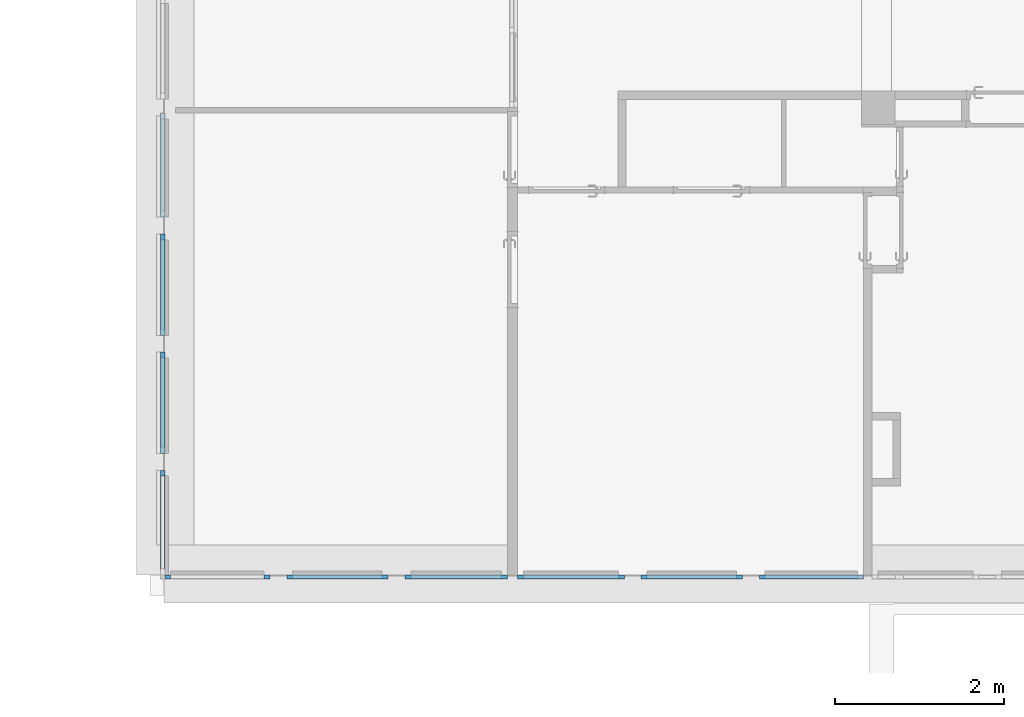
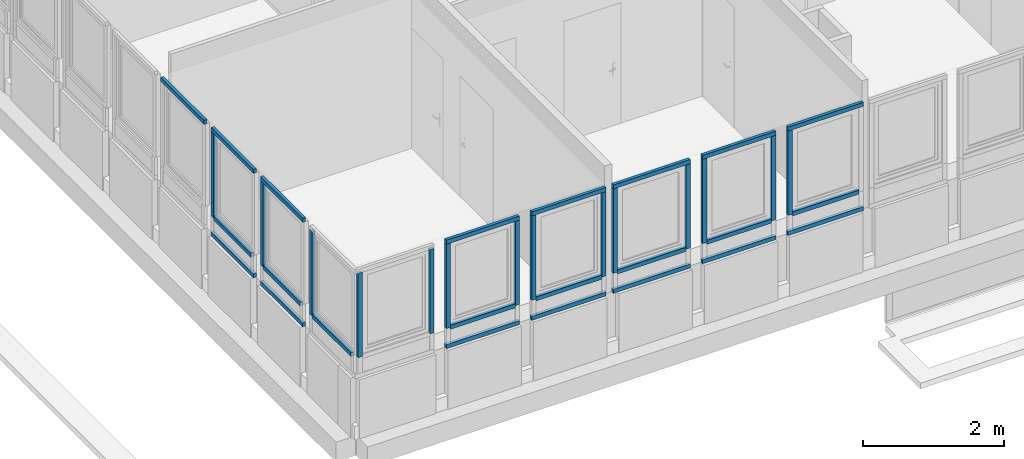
# One storey, part 2 of 97: 37 members, 10 elements without a shape of their own.
"""IFC4 building model written with IfcOpenShell, lengths in metres."""

from ifc_helpers import new_model, entity, si_unit, converted_unit, derived_unit, direction, frame, origin, place, context, subcontext, project, spatial, indexed_curve, outline, extrude, source, transform, mapped, material, type_object, type_shapes, element, aggregate, save


model = new_model("IFC4")

# Units and contexts
model_context = context("Model", 3, precision=1e-05, world=origin(), true_north=direction((6.12303176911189e-17, 1.0)))
body_context = subcontext(model_context, "Body", "Model", "MODEL_VIEW")
ifc_project = project(units=[si_unit("LENGTHUNIT", "METRE"), si_unit("AREAUNIT", "SQUARE_METRE"), si_unit("VOLUMEUNIT", "CUBIC_METRE"), converted_unit("PLANEANGLEUNIT", "DEGREE", entity("IfcRatioMeasure", 0.0174532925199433), si_unit("PLANEANGLEUNIT", "RADIAN"), dimensions=[0, 0, 0, 0, 0, 0, 0]), si_unit("MASSUNIT", "GRAM", prefix="KILO"), derived_unit("MASSDENSITYUNIT", [(si_unit("MASSUNIT", "GRAM", prefix="KILO"), 1), (si_unit("LENGTHUNIT", "METRE"), -3)]), derived_unit("MOMENTOFINERTIAUNIT", [(si_unit("LENGTHUNIT", "METRE"), 4)]), si_unit("TIMEUNIT", "SECOND"), si_unit("FREQUENCYUNIT", "HERTZ"), si_unit("THERMODYNAMICTEMPERATUREUNIT", "DEGREE_CELSIUS"), derived_unit("THERMALTRANSMITTANCEUNIT", [(si_unit("MASSUNIT", "GRAM", prefix="KILO"), 1), (si_unit("THERMODYNAMICTEMPERATUREUNIT", "KELVIN"), -1), (si_unit("TIMEUNIT", "SECOND"), -3)]), derived_unit("VOLUMETRICFLOWRATEUNIT", [(si_unit("LENGTHUNIT", "METRE"), 3), (si_unit("TIMEUNIT", "SECOND"), -1)]), si_unit("ELECTRICCURRENTUNIT", "AMPERE"), si_unit("ELECTRICVOLTAGEUNIT", "VOLT"), si_unit("POWERUNIT", "WATT"), si_unit("FORCEUNIT", "NEWTON", prefix="KILO"), si_unit("ILLUMINANCEUNIT", "LUX"), si_unit("LUMINOUSFLUXUNIT", "LUMEN"), si_unit("LUMINOUSINTENSITYUNIT", "CANDELA"), derived_unit("USERDEFINED", [(si_unit("MASSUNIT", "GRAM", prefix="KILO"), -1), (si_unit("LENGTHUNIT", "METRE"), -2), (si_unit("TIMEUNIT", "SECOND"), 3), (si_unit("LUMINOUSFLUXUNIT", "LUMEN"), 1)]), derived_unit("LINEARVELOCITYUNIT", [(si_unit("LENGTHUNIT", "METRE"), 1), (si_unit("TIMEUNIT", "SECOND"), -1)]), si_unit("PRESSUREUNIT", "PASCAL"), derived_unit("USERDEFINED", [(si_unit("LENGTHUNIT", "METRE"), -2), (si_unit("MASSUNIT", "GRAM", prefix="KILO"), 1), (si_unit("TIMEUNIT", "SECOND"), -2)]), derived_unit("LINEARFORCEUNIT", [(si_unit("MASSUNIT", "GRAM", prefix="KILO"), 1), (si_unit("LENGTHUNIT", "METRE"), 1), (si_unit("TIMEUNIT", "SECOND"), -2), (si_unit("LENGTHUNIT", "METRE"), -1)]), derived_unit("PLANARFORCEUNIT", [(si_unit("MASSUNIT", "GRAM", prefix="KILO"), 1), (si_unit("LENGTHUNIT", "METRE"), 1), (si_unit("TIMEUNIT", "SECOND"), -2), (si_unit("LENGTHUNIT", "METRE"), -2)])], contexts=[model_context])

# Site, building, storey
site_placement = place(None, origin())
site = spatial("IfcSite", under=ifc_project, at=site_placement, Name="Default", CompositionType="ELEMENT")
building_placement = place(site_placement, origin())
building = spatial("IfcBuilding", under=site, at=building_placement, Name="HOTEL CONSULAIRE BOULOGNE SUR MER", CompositionType="ELEMENT")
storey_placement = place(building_placement, frame((0.0, 0.0, 3.62152697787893)))
storey = spatial("IfcBuildingStorey", under=building, at=storey_placement, Name="Niveau 1", CompositionType="ELEMENT", Elevation=3.62152697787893)

# Curtain wall, member
curtain_wall_type = type_object("IfcCurtainWallType", Name="Mur-rideau:Simple panneau", PredefinedType="NOTDEFINED")
curtain_wall_1_placement = place(storey_placement, frame((0.0, 0.0, -3.62152697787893)))
curtain_wall_1 = element("IfcCurtainWall", 1, at=curtain_wall_1_placement, inside=storey, type_object=curtain_wall_type, Name="Mur-rideau:Simple panneau", ObjectType="Mur-rideau:Simple panneau", PredefinedType="NOTDEFINED")
ifc_material = material(Name="PVC - Blanc", Category="Plastique")
member_type_1 = type_object("IfcMemberType", Name="Meneau rectangulaire:50 x 35", PredefinedType="MULLION", material=ifc_material)
shared_shape_1 = source(origin(), body_context, "Body", "SweptSolid", [
    extrude(outline(indexed_curve([(-0.025, -0.035), (0.025, -0.035), (0.025, 0.035), (-0.025, 0.035), (-0.025, -0.035)], self_intersect=False)), frame((-0.035, -0.025, -1.20000000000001), z_axis=(0.0, 0.0, 1.0), x_axis=(0.0, -1.0, 0.0)), (0.0, 0.0, 1.0), 1.20000000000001),
])
type_shapes(member_type_1, [shared_shape_1])
member_1_placement = place(storey_placement, frame((-12.3414199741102, -29.5501047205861, 2.67047302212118), z_axis=(-1.0, 0.0, 0.0), x_axis=(0.0, 0.0, 1.0)))
member_1 = element("IfcMember", 2, at=member_1_placement, type_object=member_type_1, material=ifc_material, Name="Meneau rectangulaire:50 x 35", ObjectType="Meneau rectangulaire:50 x 35", PredefinedType="MULLION", context=body_context, shape_type="MappedRepresentation", body=[
    mapped(shared_shape_1, transform((0.0, 0.0, 0.0), scale=1.0)),
])

curtain_wall_2_placement = place(storey_placement, frame((0.0, 0.0, -3.62152697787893)))
curtain_wall_2 = element("IfcCurtainWall", 3, at=curtain_wall_2_placement, inside=storey, type_object=curtain_wall_type, Name="Mur-rideau:Simple panneau", ObjectType="Mur-rideau:Simple panneau", PredefinedType="NOTDEFINED")
member_2_placement = place(storey_placement, frame((-8.14141997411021, -29.5501047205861, 2.67047302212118), z_axis=(-1.0, 0.0, 0.0), x_axis=(0.0, 0.0, 1.0)))
member_2 = element("IfcMember", 4, at=member_2_placement, type_object=member_type_1, material=ifc_material, Name="Meneau rectangulaire:50 x 35", ObjectType="Meneau rectangulaire:50 x 35", PredefinedType="MULLION", context=body_context, shape_type="MappedRepresentation", body=[
    mapped(shared_shape_1, transform((0.0, 0.0, 0.0), scale=1.0)),
])

curtain_wall_3_placement = place(storey_placement, frame((0.0, 0.0, -3.62152697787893)))
curtain_wall_3 = element("IfcCurtainWall", 5, at=curtain_wall_3_placement, inside=storey, type_object=curtain_wall_type, Name="Mur-rideau:Simple panneau", ObjectType="Mur-rideau:Simple panneau", PredefinedType="NOTDEFINED")
member_type_2 = type_object("IfcMemberType", Name="Meneau rectangulaire:50 x 35", PredefinedType="MULLION", material=ifc_material)
shared_shape_2 = source(origin(), body_context, "Body", "SweptSolid", [
    extrude(outline(indexed_curve([(-0.025, -0.035), (0.025, -0.035), (0.025, 0.035), (-0.025, 0.035), (-0.025, -0.035)], self_intersect=False)), frame((-0.035, -0.025, -1.20000000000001), z_axis=(0.0, 0.0, 1.0), x_axis=(0.0, -1.0, 0.0)), (0.0, 0.0, 1.0), 1.20000000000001),
])
type_shapes(member_type_2, [shared_shape_2])
member_3_placement = place(storey_placement, frame((-13.7870998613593, -26.7114499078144, 0.791612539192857), z_axis=(0.0, -1.0, 0.0), x_axis=(0.0, 0.0, -1.0)))
member_3 = element("IfcMember", 6, at=member_3_placement, type_object=member_type_2, material=ifc_material, Name="Meneau rectangulaire:50 x 35", ObjectType="Meneau rectangulaire:50 x 35", PredefinedType="MULLION", context=body_context, shape_type="MappedRepresentation", body=[
    mapped(shared_shape_2, transform((0.0, 0.0, 0.0), scale=1.0)),
])

curtain_wall_4_placement = place(storey_placement, frame((0.0, 0.0, -3.62152697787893)))
curtain_wall_4 = element("IfcCurtainWall", 7, at=curtain_wall_4_placement, inside=storey, type_object=curtain_wall_type, Name="Mur-rideau:Simple panneau", ObjectType="Mur-rideau:Simple panneau", PredefinedType="NOTDEFINED")
member_4_placement = place(storey_placement, frame((-13.7870998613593, -28.1114499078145, 0.791612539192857), z_axis=(0.0, -1.0, 0.0), x_axis=(0.0, 0.0, -1.0)))
member_4 = element("IfcMember", 8, at=member_4_placement, type_object=member_type_2, material=ifc_material, Name="Meneau rectangulaire:50 x 35", ObjectType="Meneau rectangulaire:50 x 35", PredefinedType="MULLION", context=body_context, shape_type="MappedRepresentation", body=[
    mapped(shared_shape_2, transform((0.0, 0.0, 0.0), scale=1.0)),
])

# Member
member_5_placement = place(storey_placement, frame((-11.1414199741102, -29.5501047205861, 0.791612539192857), z_axis=(1.0, 0.0, 0.0), x_axis=(0.0, 0.0, -1.0)))
member_5 = element("IfcMember", 9, at=member_5_placement, type_object=member_type_2, material=ifc_material, Name="Meneau rectangulaire:50 x 35", ObjectType="Meneau rectangulaire:50 x 35", PredefinedType="MULLION", context=body_context, shape_type="MappedRepresentation", body=[
    mapped(shared_shape_2, transform((0.0, 0.0, 0.0), scale=1.0)),
])

member_6_placement = place(storey_placement, frame((-6.94141997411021, -29.5501047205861, 0.791612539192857), z_axis=(1.0, 0.0, 0.0), x_axis=(0.0, 0.0, -1.0)))
member_6 = element("IfcMember", 10, at=member_6_placement, type_object=member_type_2, material=ifc_material, Name="Meneau rectangulaire:50 x 35", ObjectType="Meneau rectangulaire:50 x 35", PredefinedType="MULLION", context=body_context, shape_type="MappedRepresentation", body=[
    mapped(shared_shape_2, transform((0.0, 0.0, 0.0), scale=1.0)),
])

member_type_3 = type_object("IfcMemberType", Name="Meneau rectangulaire:50 x 35", PredefinedType="MULLION", material=ifc_material)
shared_shape_3 = source(origin(), body_context, "Body", "SweptSolid", [
    extrude(outline(indexed_curve([(-0.025, -0.035), (0.025, -0.035), (0.025, 0.035), (-0.025, 0.035), (-0.025, -0.035)], self_intersect=False)), frame((0.0, -0.025, -1.06000000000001), z_axis=(0.0, 0.0, 1.0), x_axis=(0.0, -1.0, 0.0)), (0.0, 0.0, 1.0), 1.06000000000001),
])
type_shapes(member_type_3, [shared_shape_3])
member_7_placement = place(storey_placement, frame((-13.7870998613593, -25.5814499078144, 1.13961253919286), z_axis=(0.0, 1.0, 0.0), x_axis=(0.0, 0.0, 1.0)))
member_7 = element("IfcMember", 11, at=member_7_placement, type_object=member_type_3, material=ifc_material, Name="Meneau rectangulaire:50 x 35", ObjectType="Meneau rectangulaire:50 x 35", PredefinedType="MULLION", context=body_context, shape_type="MappedRepresentation", body=[
    mapped(shared_shape_3, transform((0.0, 0.0, 0.0), scale=1.0)),
])

member_8_placement = place(storey_placement, frame((-13.7870998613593, -26.9814499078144, 1.13961253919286), z_axis=(0.0, 1.0, 0.0), x_axis=(0.0, 0.0, 1.0)))
member_8 = element("IfcMember", 12, at=member_8_placement, type_object=member_type_3, material=ifc_material, Name="Meneau rectangulaire:50 x 35", ObjectType="Meneau rectangulaire:50 x 35", PredefinedType="MULLION", context=body_context, shape_type="MappedRepresentation", body=[
    mapped(shared_shape_3, transform((0.0, 0.0, 0.0), scale=1.0)),
])

member_9_placement = place(storey_placement, frame((-12.2714199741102, -29.5501047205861, 1.13961253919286), z_axis=(-1.0, 0.0, 0.0), x_axis=(0.0, 0.0, 1.0)))
member_9 = element("IfcMember", 13, at=member_9_placement, type_object=member_type_3, material=ifc_material, Name="Meneau rectangulaire:50 x 35", ObjectType="Meneau rectangulaire:50 x 35", PredefinedType="MULLION", context=body_context, shape_type="MappedRepresentation", body=[
    mapped(shared_shape_3, transform((0.0, 0.0, 0.0), scale=1.0)),
])

member_10_placement = place(storey_placement, frame((-8.07141997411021, -29.5501047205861, 1.13961253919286), z_axis=(-1.0, 0.0, 0.0), x_axis=(0.0, 0.0, 1.0)))
member_10 = element("IfcMember", 14, at=member_10_placement, type_object=member_type_3, material=ifc_material, Name="Meneau rectangulaire:50 x 35", ObjectType="Meneau rectangulaire:50 x 35", PredefinedType="MULLION", context=body_context, shape_type="MappedRepresentation", body=[
    mapped(shared_shape_3, transform((0.0, 0.0, 0.0), scale=1.0)),
])

member_type_4 = type_object("IfcMemberType", Name="Meneau rectangulaire:50 x 35", PredefinedType="MULLION", material=ifc_material)
shared_shape_4 = source(origin(), body_context, "Body", "SweptSolid", [
    extrude(outline(indexed_curve([(-0.025, -0.035), (0.025, -0.035), (0.025, 0.035), (-0.025, 0.035), (-0.025, -0.035)], self_intersect=False)), frame((-0.035, -0.025, -1.46086048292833), z_axis=(0.0, 0.0, 1.0), x_axis=(0.0, -1.0, 0.0)), (0.0, 0.0, 1.0), 1.46086048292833),
])
type_shapes(member_type_4, [shared_shape_4])
member_11_placement = place(storey_placement, frame((-13.7870998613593, -25.5114499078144, 1.13961253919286), z_axis=(0.0, 0.0, -1.0), x_axis=(0.0, 1.0, 0.0)))
member_11 = element("IfcMember", 15, at=member_11_placement, type_object=member_type_4, material=ifc_material, Name="Meneau rectangulaire:50 x 35", ObjectType="Meneau rectangulaire:50 x 35", PredefinedType="MULLION", context=body_context, shape_type="MappedRepresentation", body=[
    mapped(shared_shape_4, transform((0.0, 0.0, 0.0), scale=1.0)),
])

# Curtain wall, member
curtain_wall_5_placement = place(storey_placement, frame((0.0, 0.0, -3.62152697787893)))
curtain_wall_5 = element("IfcCurtainWall", 16, at=curtain_wall_5_placement, inside=storey, type_object=curtain_wall_type, Name="Mur-rideau:Simple panneau", ObjectType="Mur-rideau:Simple panneau", PredefinedType="NOTDEFINED")
member_12_placement = place(storey_placement, frame((-13.7870998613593, -28.3114499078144, 1.13961253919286), z_axis=(0.0, 0.0, -1.0), x_axis=(0.0, 1.0, 0.0)))
member_12 = element("IfcMember", 17, at=member_12_placement, type_object=member_type_4, material=ifc_material, Name="Meneau rectangulaire:50 x 35", ObjectType="Meneau rectangulaire:50 x 35", PredefinedType="MULLION", context=body_context, shape_type="MappedRepresentation", body=[
    mapped(shared_shape_4, transform((0.0, 0.0, 0.0), scale=1.0)),
])

# Member
member_13_placement = place(storey_placement, frame((-13.7870998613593, -26.9114499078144, 1.13961253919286), z_axis=(0.0, 0.0, -1.0), x_axis=(0.0, 1.0, 0.0)))
member_13 = element("IfcMember", 18, at=member_13_placement, type_object=member_type_4, material=ifc_material, Name="Meneau rectangulaire:50 x 35", ObjectType="Meneau rectangulaire:50 x 35", PredefinedType="MULLION", context=body_context, shape_type="MappedRepresentation", body=[
    mapped(shared_shape_4, transform((0.0, 0.0, 0.0), scale=1.0)),
])

# Curtain wall, member
curtain_wall_6_placement = place(storey_placement, frame((0.0, 0.0, -3.62152697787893)))
curtain_wall_6 = element("IfcCurtainWall", 19, at=curtain_wall_6_placement, inside=storey, type_object=curtain_wall_type, Name="Mur-rideau:Simple panneau", ObjectType="Mur-rideau:Simple panneau", PredefinedType="NOTDEFINED")
member_14_placement = place(storey_placement, frame((-13.7870998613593, -29.5501047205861, 1.13961253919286), z_axis=(0.0, 0.0, -1.0), x_axis=(-1.0, 0.0, 0.0)))
member_14 = element("IfcMember", 20, at=member_14_placement, type_object=member_type_4, material=ifc_material, Name="Meneau rectangulaire:50 x 35", ObjectType="Meneau rectangulaire:50 x 35", PredefinedType="MULLION", context=body_context, shape_type="MappedRepresentation", body=[
    mapped(shared_shape_4, transform((0.0, 0.0, 0.0), scale=1.0)),
])

# Member
member_15_placement = place(storey_placement, frame((-12.3414199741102, -29.5501047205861, 1.13961253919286), z_axis=(0.0, 0.0, -1.0), x_axis=(-1.0, 0.0, 0.0)))
member_15 = element("IfcMember", 21, at=member_15_placement, type_object=member_type_4, material=ifc_material, Name="Meneau rectangulaire:50 x 35", ObjectType="Meneau rectangulaire:50 x 35", PredefinedType="MULLION", context=body_context, shape_type="MappedRepresentation", body=[
    mapped(shared_shape_4, transform((0.0, 0.0, 0.0), scale=1.0)),
])

# Curtain wall, member
curtain_wall_7_placement = place(storey_placement, frame((0.0, 0.0, -3.62152697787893)))
curtain_wall_7 = element("IfcCurtainWall", 22, at=curtain_wall_7_placement, inside=storey, type_object=curtain_wall_type, Name="Mur-rideau:Simple panneau", ObjectType="Mur-rideau:Simple panneau", PredefinedType="NOTDEFINED")
member_16_placement = place(storey_placement, frame((-10.9414199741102, -29.5501047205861, 1.13961253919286), z_axis=(0.0, 0.0, -1.0), x_axis=(-1.0, 0.0, 0.0)))
member_16 = element("IfcMember", 23, at=member_16_placement, type_object=member_type_4, material=ifc_material, Name="Meneau rectangulaire:50 x 35", ObjectType="Meneau rectangulaire:50 x 35", PredefinedType="MULLION", context=body_context, shape_type="MappedRepresentation", body=[
    mapped(shared_shape_4, transform((0.0, 0.0, 0.0), scale=1.0)),
])

curtain_wall_8_placement = place(storey_placement, frame((0.0, 0.0, -3.62152697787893)))
curtain_wall_8 = element("IfcCurtainWall", 24, at=curtain_wall_8_placement, inside=storey, type_object=curtain_wall_type, Name="Mur-rideau:Simple panneau", ObjectType="Mur-rideau:Simple panneau", PredefinedType="NOTDEFINED")
member_17_placement = place(storey_placement, frame((-9.60440198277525, -29.5501047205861, 1.13961253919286), z_axis=(0.0, 0.0, -1.0), x_axis=(-1.0, 0.0, 0.0)))
member_17 = element("IfcMember", 25, at=member_17_placement, type_object=member_type_4, material=ifc_material, Name="Meneau rectangulaire:50 x 35", ObjectType="Meneau rectangulaire:50 x 35", PredefinedType="MULLION", context=body_context, shape_type="MappedRepresentation", body=[
    mapped(shared_shape_4, transform((0.0, 0.0, 0.0), scale=1.0)),
])

# Member
member_18_placement = place(storey_placement, frame((-8.14141997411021, -29.5501047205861, 1.13961253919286), z_axis=(0.0, 0.0, -1.0), x_axis=(-1.0, 0.0, 0.0)))
member_18 = element("IfcMember", 26, at=member_18_placement, type_object=member_type_4, material=ifc_material, Name="Meneau rectangulaire:50 x 35", ObjectType="Meneau rectangulaire:50 x 35", PredefinedType="MULLION", context=body_context, shape_type="MappedRepresentation", body=[
    mapped(shared_shape_4, transform((0.0, 0.0, 0.0), scale=1.0)),
])

# Curtain wall, member
curtain_wall_9_placement = place(storey_placement, frame((0.0, 0.0, -3.62152697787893)))
curtain_wall_9 = element("IfcCurtainWall", 27, at=curtain_wall_9_placement, inside=storey, type_object=curtain_wall_type, Name="Mur-rideau:Simple panneau", ObjectType="Mur-rideau:Simple panneau", PredefinedType="NOTDEFINED")
member_19_placement = place(storey_placement, frame((-6.74141997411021, -29.5501047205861, 1.13961253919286), z_axis=(0.0, 0.0, -1.0), x_axis=(-1.0, 0.0, 0.0)))
member_19 = element("IfcMember", 28, at=member_19_placement, type_object=member_type_4, material=ifc_material, Name="Meneau rectangulaire:50 x 35", ObjectType="Meneau rectangulaire:50 x 35", PredefinedType="MULLION", context=body_context, shape_type="MappedRepresentation", body=[
    mapped(shared_shape_4, transform((0.0, 0.0, 0.0), scale=1.0)),
])

# Member
member_type_5 = type_object("IfcMemberType", Name="Meneau rectangulaire:50 x 35", PredefinedType="MULLION", material=ifc_material)
shared_shape_5 = source(origin(), body_context, "Body", "SweptSolid", [
    extrude(outline(indexed_curve([(-0.025, -0.035), (0.025, -0.035), (0.025, 0.035), (-0.025, 0.035), (-0.025, -0.035)], self_intersect=False)), frame((-0.035, -0.025, -1.20000000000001), z_axis=(0.0, 0.0, 1.0), x_axis=(0.0, -1.0, 0.0)), (0.0, 0.0, 1.0), 1.20000000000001),
])
type_shapes(member_type_5, [shared_shape_5])
member_20_placement = place(storey_placement, frame((-13.7870998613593, -25.5114499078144, 2.67047302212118), z_axis=(0.0, 1.0, 0.0), x_axis=(0.0, 0.0, 1.0)))
member_20 = element("IfcMember", 29, at=member_20_placement, type_object=member_type_5, material=ifc_material, Name="Meneau rectangulaire:50 x 35", ObjectType="Meneau rectangulaire:50 x 35", PredefinedType="MULLION", context=body_context, shape_type="MappedRepresentation", body=[
    mapped(shared_shape_5, transform((0.0, 0.0, 0.0), scale=1.0)),
])

aggregate(curtain_wall_3, [member_20, member_3, member_7, member_11])

member_21_placement = place(storey_placement, frame((-13.7870998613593, -26.9114499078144, 2.67047302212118), z_axis=(0.0, 1.0, 0.0), x_axis=(0.0, 0.0, 1.0)))
member_21 = element("IfcMember", 30, at=member_21_placement, type_object=member_type_5, material=ifc_material, Name="Meneau rectangulaire:50 x 35", ObjectType="Meneau rectangulaire:50 x 35", PredefinedType="MULLION", context=body_context, shape_type="MappedRepresentation", body=[
    mapped(shared_shape_5, transform((0.0, 0.0, 0.0), scale=1.0)),
])

aggregate(curtain_wall_4, [member_21, member_4, member_8, member_13])

# Curtain wall, member
curtain_wall_10_placement = place(storey_placement, frame((0.0, 0.0, -3.62152697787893)))
curtain_wall_10 = element("IfcCurtainWall", 31, at=curtain_wall_10_placement, inside=storey, type_object=curtain_wall_type, Name="Mur-rideau:Simple panneau", ObjectType="Mur-rideau:Simple panneau", PredefinedType="NOTDEFINED")
member_type_6 = type_object("IfcMemberType", Name="Meneau rectangulaire:50 x 35", PredefinedType="MULLION", material=ifc_material)
shared_shape_6 = source(origin(), body_context, "Body", "SweptSolid", [
    extrude(outline(indexed_curve([(-0.025, -0.035), (0.025, -0.035), (0.025, 0.035), (-0.025, 0.035), (-0.025, -0.035)], self_intersect=False)), frame((-0.035, -0.025, -1.23219029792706), z_axis=(0.0, 0.0, 1.0), x_axis=(0.0, -1.0, 0.0)), (0.0, 0.0, 1.0), 1.23219029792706),
])
type_shapes(member_type_6, [shared_shape_6])
member_22_placement = place(storey_placement, frame((-13.7870998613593, -24.0792596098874, 2.67047302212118), z_axis=(0.0, 1.0, 0.0), x_axis=(0.0, 0.0, 1.0)))
member_22 = element("IfcMember", 32, at=member_22_placement, type_object=member_type_6, material=ifc_material, Name="Meneau rectangulaire:50 x 35", ObjectType="Meneau rectangulaire:50 x 35", PredefinedType="MULLION", context=body_context, shape_type="MappedRepresentation", body=[
    mapped(shared_shape_6, transform((0.0, 0.0, 0.0), scale=1.0)),
])
aggregate(curtain_wall_10, [member_22])

# Member
member_type_7 = type_object("IfcMemberType", Name="Meneau rectangulaire:50 x 35", PredefinedType="MULLION", material=ifc_material)
shared_shape_7 = source(origin(), body_context, "Body", "SweptSolid", [
    extrude(outline(indexed_curve([(-0.025, -0.035), (0.025, -0.035), (0.025, 0.035), (-0.025, 0.035), (-0.025, -0.035)], self_intersect=False)), frame((0.0, -0.025, -1.09865481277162), z_axis=(0.0, 0.0, 1.0), x_axis=(0.0, -1.0, 0.0)), (0.0, 0.0, 1.0), 1.09865481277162),
])
type_shapes(member_type_7, [shared_shape_7])
member_23_placement = place(storey_placement, frame((-13.7870998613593, -28.3814499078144, 1.13961253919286), z_axis=(0.0, 1.0, 0.0), x_axis=(0.0, 0.0, 1.0)))
member_23 = element("IfcMember", 33, at=member_23_placement, type_object=member_type_7, material=ifc_material, Name="Meneau rectangulaire:50 x 35", ObjectType="Meneau rectangulaire:50 x 35", PredefinedType="MULLION", context=body_context, shape_type="MappedRepresentation", body=[
    mapped(shared_shape_7, transform((0.0, 0.0, 0.0), scale=1.0)),
])

aggregate(curtain_wall_5, [member_23, member_12])

member_type_8 = type_object("IfcMemberType", Name="Meneau rectangulaire:50 x 35", PredefinedType="MULLION", material=ifc_material)
shared_shape_8 = source(origin(), body_context, "Body", "SweptSolid", [
    extrude(outline(indexed_curve([(-0.025, -0.035), (0.025, -0.035), (0.025, 0.035), (-0.025, 0.035), (-0.025, -0.035)], self_intersect=False)), frame((-0.035, -0.025, -1.46086048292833), z_axis=(0.0, 0.0, 1.0), x_axis=(0.0, -1.0, 0.0)), (0.0, 0.0, 1.0), 1.46086048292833),
])
type_shapes(member_type_8, [shared_shape_8])
member_24_placement = place(storey_placement, frame((-12.5414199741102, -29.5501047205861, 2.60047302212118)))
member_24 = element("IfcMember", 34, at=member_24_placement, type_object=member_type_8, material=ifc_material, Name="Meneau rectangulaire:50 x 35", ObjectType="Meneau rectangulaire:50 x 35", PredefinedType="MULLION", context=body_context, shape_type="MappedRepresentation", body=[
    mapped(shared_shape_8, transform((0.0, 0.0, 0.0), scale=1.0)),
])

aggregate(curtain_wall_6, [member_24, member_14])

member_25_placement = place(storey_placement, frame((-11.1414199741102, -29.5501047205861, 2.60047302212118)))
member_25 = element("IfcMember", 35, at=member_25_placement, type_object=member_type_8, material=ifc_material, Name="Meneau rectangulaire:50 x 35", ObjectType="Meneau rectangulaire:50 x 35", PredefinedType="MULLION", context=body_context, shape_type="MappedRepresentation", body=[
    mapped(shared_shape_8, transform((0.0, 0.0, 0.0), scale=1.0)),
])

aggregate(curtain_wall_1, [member_25, member_1, member_5, member_9, member_15])

member_26_placement = place(storey_placement, frame((-9.72440198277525, -29.5501047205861, 2.60047302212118)))
member_26 = element("IfcMember", 36, at=member_26_placement, type_object=member_type_8, material=ifc_material, Name="Meneau rectangulaire:50 x 35", ObjectType="Meneau rectangulaire:50 x 35", PredefinedType="MULLION", context=body_context, shape_type="MappedRepresentation", body=[
    mapped(shared_shape_8, transform((0.0, 0.0, 0.0), scale=1.0)),
])

member_27_placement = place(storey_placement, frame((-8.3414199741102, -29.5501047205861, 2.60047302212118)))
member_27 = element("IfcMember", 37, at=member_27_placement, type_object=member_type_8, material=ifc_material, Name="Meneau rectangulaire:50 x 35", ObjectType="Meneau rectangulaire:50 x 35", PredefinedType="MULLION", context=body_context, shape_type="MappedRepresentation", body=[
    mapped(shared_shape_8, transform((0.0, 0.0, 0.0), scale=1.0)),
])

member_28_placement = place(storey_placement, frame((-6.94141997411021, -29.5501047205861, 2.60047302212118)))
member_28 = element("IfcMember", 38, at=member_28_placement, type_object=member_type_8, material=ifc_material, Name="Meneau rectangulaire:50 x 35", ObjectType="Meneau rectangulaire:50 x 35", PredefinedType="MULLION", context=body_context, shape_type="MappedRepresentation", body=[
    mapped(shared_shape_8, transform((0.0, 0.0, 0.0), scale=1.0)),
])

aggregate(curtain_wall_2, [member_28, member_2, member_6, member_10, member_18])

member_type_9 = type_object("IfcMemberType", Name="Meneau rectangulaire:50 x 35", PredefinedType="MULLION", material=ifc_material)
shared_shape_9 = source(origin(), body_context, "Body", "SweptSolid", [
    extrude(outline(indexed_curve([(-0.025, -0.035), (0.025, -0.035), (0.025, 0.035), (-0.025, 0.035), (-0.025, -0.035)], self_intersect=False)), frame((-0.035, -0.025, -1.21701799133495), z_axis=(0.0, 0.0, 1.0), x_axis=(0.0, -1.0, 0.0)), (0.0, 0.0, 1.0), 1.21701799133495),
])
type_shapes(member_type_9, [shared_shape_9])
member_29_placement = place(storey_placement, frame((-10.9414199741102, -29.5501047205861, 2.67047302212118), z_axis=(-1.0, 0.0, 0.0), x_axis=(0.0, 0.0, 1.0)))
member_29 = element("IfcMember", 39, at=member_29_placement, type_object=member_type_9, material=ifc_material, Name="Meneau rectangulaire:50 x 35", ObjectType="Meneau rectangulaire:50 x 35", PredefinedType="MULLION", context=body_context, shape_type="MappedRepresentation", body=[
    mapped(shared_shape_9, transform((0.0, 0.0, 0.0), scale=1.0)),
])

member_type_10 = type_object("IfcMemberType", Name="Meneau rectangulaire:50 x 35", PredefinedType="MULLION", material=ifc_material)
shared_shape_10 = source(origin(), body_context, "Body", "SweptSolid", [
    extrude(outline(indexed_curve([(-0.025, -0.035), (0.025, -0.035), (0.025, 0.035), (-0.025, 0.035), (-0.025, -0.035)], self_intersect=False)), frame((-0.035, -0.025, -1.21701799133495), z_axis=(0.0, 0.0, 1.0), x_axis=(0.0, -1.0, 0.0)), (0.0, 0.0, 1.0), 1.21701799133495),
])
type_shapes(member_type_10, [shared_shape_10])
member_30_placement = place(storey_placement, frame((-9.72440198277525, -29.5501047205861, 0.791612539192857), z_axis=(1.0, 0.0, 0.0), x_axis=(0.0, 0.0, -1.0)))
member_30 = element("IfcMember", 40, at=member_30_placement, type_object=member_type_10, material=ifc_material, Name="Meneau rectangulaire:50 x 35", ObjectType="Meneau rectangulaire:50 x 35", PredefinedType="MULLION", context=body_context, shape_type="MappedRepresentation", body=[
    mapped(shared_shape_10, transform((0.0, 0.0, 0.0), scale=1.0)),
])

member_type_11 = type_object("IfcMemberType", Name="Meneau rectangulaire:50 x 35", PredefinedType="MULLION", material=ifc_material)
shared_shape_11 = source(origin(), body_context, "Body", "SweptSolid", [
    extrude(outline(indexed_curve([(-0.025, -0.035), (0.025, -0.035), (0.025, 0.035), (-0.025, 0.035), (-0.025, -0.035)], self_intersect=False)), frame((0.0, -0.025, -1.07701799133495), z_axis=(0.0, 0.0, 1.0), x_axis=(0.0, -1.0, 0.0)), (0.0, 0.0, 1.0), 1.07701799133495),
])
type_shapes(member_type_11, [shared_shape_11])
member_31_placement = place(storey_placement, frame((-10.8714199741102, -29.5501047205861, 1.13961253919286), z_axis=(-1.0, 0.0, 0.0), x_axis=(0.0, 0.0, 1.0)))
member_31 = element("IfcMember", 41, at=member_31_placement, type_object=member_type_11, material=ifc_material, Name="Meneau rectangulaire:50 x 35", ObjectType="Meneau rectangulaire:50 x 35", PredefinedType="MULLION", context=body_context, shape_type="MappedRepresentation", body=[
    mapped(shared_shape_11, transform((0.0, 0.0, 0.0), scale=1.0)),
])

aggregate(curtain_wall_7, [member_26, member_29, member_30, member_31, member_16])

member_type_12 = type_object("IfcMemberType", Name="Meneau rectangulaire:50 x 35", PredefinedType="MULLION", material=ifc_material)
shared_shape_12 = source(origin(), body_context, "Body", "SweptSolid", [
    extrude(outline(indexed_curve([(-0.025, -0.035), (0.025, -0.035), (0.025, 0.035), (-0.025, 0.035), (-0.025, -0.035)], self_intersect=False)), frame((-0.035, -0.025, -1.26298200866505), z_axis=(0.0, 0.0, 1.0), x_axis=(0.0, -1.0, 0.0)), (0.0, 0.0, 1.0), 1.26298200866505),
])
type_shapes(member_type_12, [shared_shape_12])
member_32_placement = place(storey_placement, frame((-9.60440198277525, -29.5501047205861, 2.67047302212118), z_axis=(-1.0, 0.0, 0.0), x_axis=(0.0, 0.0, 1.0)))
member_32 = element("IfcMember", 42, at=member_32_placement, type_object=member_type_12, material=ifc_material, Name="Meneau rectangulaire:50 x 35", ObjectType="Meneau rectangulaire:50 x 35", PredefinedType="MULLION", context=body_context, shape_type="MappedRepresentation", body=[
    mapped(shared_shape_12, transform((0.0, 0.0, 0.0), scale=1.0)),
])

member_type_13 = type_object("IfcMemberType", Name="Meneau rectangulaire:50 x 35", PredefinedType="MULLION", material=ifc_material)
shared_shape_13 = source(origin(), body_context, "Body", "SweptSolid", [
    extrude(outline(indexed_curve([(-0.025, -0.035), (0.025, -0.035), (0.025, 0.035), (-0.025, 0.035), (-0.025, -0.035)], self_intersect=False)), frame((-0.035, -0.025, -1.26298200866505), z_axis=(0.0, 0.0, 1.0), x_axis=(0.0, -1.0, 0.0)), (0.0, 0.0, 1.0), 1.26298200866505),
])
type_shapes(member_type_13, [shared_shape_13])
member_33_placement = place(storey_placement, frame((-8.3414199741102, -29.5501047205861, 0.791612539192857), z_axis=(1.0, 0.0, 0.0), x_axis=(0.0, 0.0, -1.0)))
member_33 = element("IfcMember", 43, at=member_33_placement, type_object=member_type_13, material=ifc_material, Name="Meneau rectangulaire:50 x 35", ObjectType="Meneau rectangulaire:50 x 35", PredefinedType="MULLION", context=body_context, shape_type="MappedRepresentation", body=[
    mapped(shared_shape_13, transform((0.0, 0.0, 0.0), scale=1.0)),
])

member_type_14 = type_object("IfcMemberType", Name="Meneau rectangulaire:50 x 35", PredefinedType="MULLION", material=ifc_material)
shared_shape_14 = source(origin(), body_context, "Body", "SweptSolid", [
    extrude(outline(indexed_curve([(-0.025, -0.035), (0.025, -0.035), (0.025, 0.035), (-0.025, 0.035), (-0.025, -0.035)], self_intersect=False)), frame((0.0, -0.025, -1.12298200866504), z_axis=(0.0, 0.0, 1.0), x_axis=(0.0, -1.0, 0.0)), (0.0, 0.0, 1.0), 1.12298200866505),
])
type_shapes(member_type_14, [shared_shape_14])
member_34_placement = place(storey_placement, frame((-9.53440198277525, -29.5501047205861, 1.13961253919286), z_axis=(-1.0, 0.0, 0.0), x_axis=(0.0, 0.0, 1.0)))
member_34 = element("IfcMember", 44, at=member_34_placement, type_object=member_type_14, material=ifc_material, Name="Meneau rectangulaire:50 x 35", ObjectType="Meneau rectangulaire:50 x 35", PredefinedType="MULLION", context=body_context, shape_type="MappedRepresentation", body=[
    mapped(shared_shape_14, transform((0.0, 0.0, 0.0), scale=1.0)),
])

aggregate(curtain_wall_8, [member_27, member_32, member_33, member_34, member_17])

member_type_15 = type_object("IfcMemberType", Name="Meneau rectangulaire:50 x 35", PredefinedType="MULLION", material=ifc_material)
shared_shape_15 = source(origin(), body_context, "Body", "SweptSolid", [
    extrude(outline(indexed_curve([(-0.025, -0.035), (0.025, -0.035), (0.025, 0.035), (-0.025, 0.035), (-0.025, -0.035)], self_intersect=False)), frame((-0.035, -0.025, -1.23427690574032), z_axis=(0.0, 0.0, 1.0), x_axis=(0.0, -1.0, 0.0)), (0.0, 0.0, 1.0), 1.23427690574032),
])
type_shapes(member_type_15, [shared_shape_15])
member_35_placement = place(storey_placement, frame((-6.74141997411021, -29.5501047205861, 2.67047302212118), z_axis=(-1.0, 0.0, 0.0), x_axis=(0.0, 0.0, 1.0)))
member_35 = element("IfcMember", 45, at=member_35_placement, type_object=member_type_15, material=ifc_material, Name="Meneau rectangulaire:50 x 35", ObjectType="Meneau rectangulaire:50 x 35", PredefinedType="MULLION", context=body_context, shape_type="MappedRepresentation", body=[
    mapped(shared_shape_15, transform((0.0, 0.0, 0.0), scale=1.0)),
])

member_type_16 = type_object("IfcMemberType", Name="Meneau rectangulaire:50 x 35", PredefinedType="MULLION", material=ifc_material)
shared_shape_16 = source(origin(), body_context, "Body", "SweptSolid", [
    extrude(outline(indexed_curve([(-0.025, -0.035), (0.025, -0.035), (0.025, 0.035), (-0.025, 0.035), (-0.025, -0.035)], self_intersect=False)), frame((-0.035, -0.025, -1.23427690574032), z_axis=(0.0, 0.0, 1.0), x_axis=(0.0, -1.0, 0.0)), (0.0, 0.0, 1.0), 1.23427690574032),
])
type_shapes(member_type_16, [shared_shape_16])
member_36_placement = place(storey_placement, frame((-5.50714306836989, -29.5501047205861, 0.791612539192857), z_axis=(1.0, 0.0, 0.0), x_axis=(0.0, 0.0, -1.0)))
member_36 = element("IfcMember", 46, at=member_36_placement, type_object=member_type_16, material=ifc_material, Name="Meneau rectangulaire:50 x 35", ObjectType="Meneau rectangulaire:50 x 35", PredefinedType="MULLION", context=body_context, shape_type="MappedRepresentation", body=[
    mapped(shared_shape_16, transform((0.0, 0.0, 0.0), scale=1.0)),
])

member_type_17 = type_object("IfcMemberType", Name="Meneau rectangulaire:50 x 35", PredefinedType="MULLION", material=ifc_material)
shared_shape_17 = source(origin(), body_context, "Body", "SweptSolid", [
    extrude(outline(indexed_curve([(-0.025, -0.035), (0.025, -0.035), (0.025, 0.035), (-0.025, 0.035), (-0.025, -0.035)], self_intersect=False)), frame((0.0, -0.025, -1.09427690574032), z_axis=(0.0, 0.0, 1.0), x_axis=(0.0, -1.0, 0.0)), (0.0, 0.0, 1.0), 1.09427690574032),
])
type_shapes(member_type_17, [shared_shape_17])
member_37_placement = place(storey_placement, frame((-6.67141997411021, -29.5501047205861, 1.13961253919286), z_axis=(-1.0, 0.0, 0.0), x_axis=(0.0, 0.0, 1.0)))
member_37 = element("IfcMember", 47, at=member_37_placement, type_object=member_type_17, material=ifc_material, Name="Meneau rectangulaire:50 x 35", ObjectType="Meneau rectangulaire:50 x 35", PredefinedType="MULLION", context=body_context, shape_type="MappedRepresentation", body=[
    mapped(shared_shape_17, transform((0.0, 0.0, 0.0), scale=1.0)),
])

aggregate(curtain_wall_9, [member_35, member_36, member_37, member_19])

save(model, "model.ifc")
